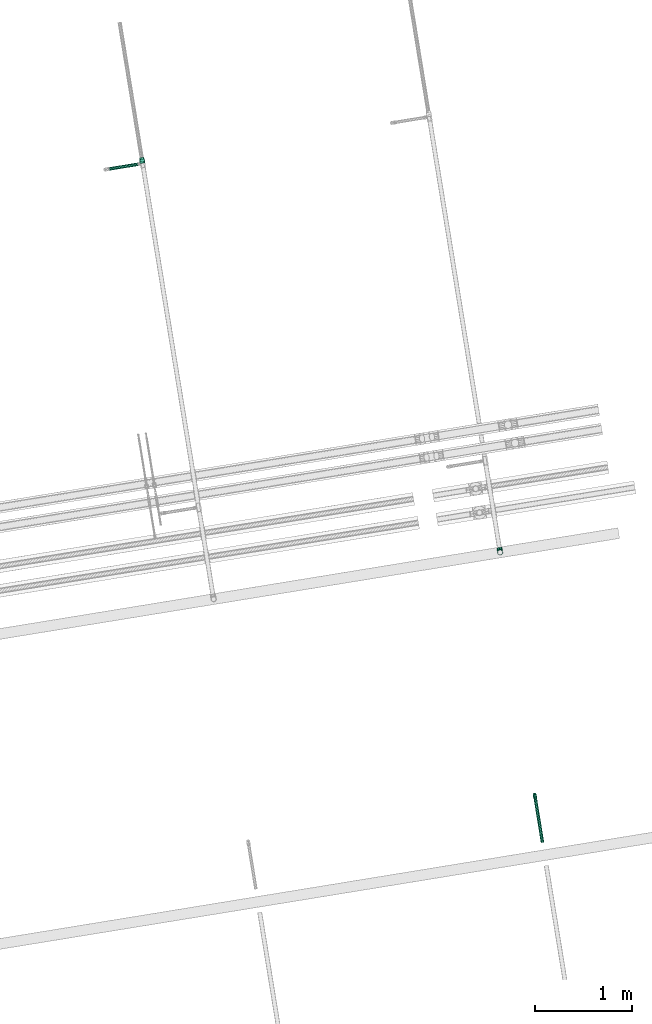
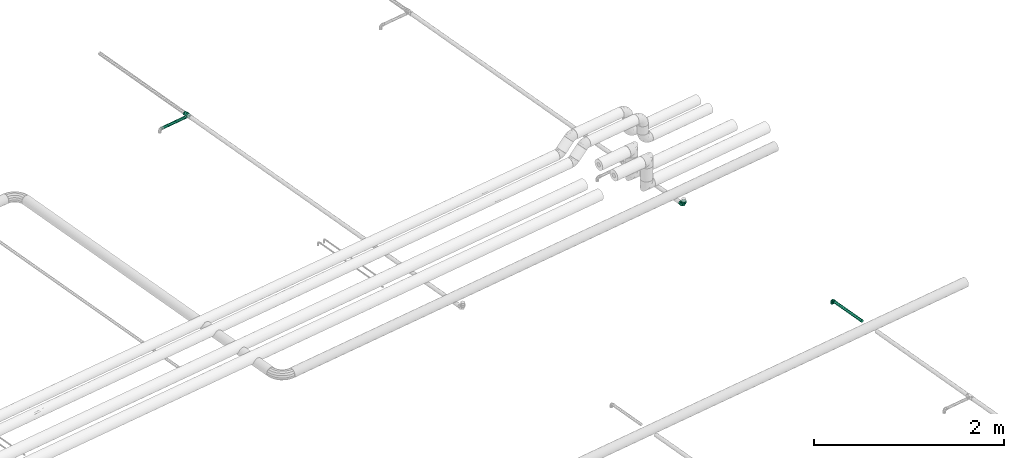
# One storey, part 26 of 56: 3 flow fittings, 2 flow segments.
"""IFC2X3 building model written with IfcOpenShell, lengths in millimetres."""

from ifc_helpers import new_model, entity, si_unit, converted_unit, derived_unit, direction, frame, frame_2d, origin, origin_with_axes, origin_2d_with_axis, place, context, subcontext, project, spatial, circle, extrude, faceted_brep, source, transform, mapped, material, type_object, element, save


model = new_model("IFC2X3")

# Units and contexts
model_context = context("Model", 3, precision=0.01, world=origin(), true_north=direction((6.12323399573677e-17, 1.0)))
plan_context = context("Plan", 3, precision=1e-05, world=origin_with_axes())
body_context = subcontext(model_context, "Body", "Model", "MODEL_VIEW")
ifc_project = project(units=[converted_unit("PLANEANGLEUNIT", "DEGREE", entity("IfcPositiveLengthMeasure", 0.0174532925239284), si_unit("PLANEANGLEUNIT", "RADIAN"), dimensions=[0, 0, 0, 0, 0, 0, 0]), si_unit("AREAUNIT", "SQUARE_METRE"), si_unit("LENGTHUNIT", "METRE", prefix="MILLI"), si_unit("MASSUNIT", "GRAM", prefix="KILO"), si_unit("POWERUNIT", "WATT"), si_unit("PRESSUREUNIT", "PASCAL", prefix="KILO"), si_unit("FORCEUNIT", "NEWTON", prefix="KILO"), si_unit("ELECTRICVOLTAGEUNIT", "VOLT"), si_unit("ELECTRICCURRENTUNIT", "AMPERE"), si_unit("THERMODYNAMICTEMPERATUREUNIT", "DEGREE_CELSIUS"), si_unit("TIMEUNIT", "SECOND"), si_unit("VOLUMEUNIT", "CUBIC_METRE"), derived_unit("LINEARVELOCITYUNIT", [(si_unit("LENGTHUNIT", "METRE"), 1), (si_unit("TIMEUNIT", "SECOND"), -1)]), derived_unit("VOLUMETRICFLOWRATEUNIT", [(si_unit("VOLUMEUNIT", "CUBIC_METRE"), 1), (si_unit("TIMEUNIT", "SECOND"), -1)]), derived_unit("THERMALTRANSMITTANCEUNIT", [(si_unit("POWERUNIT", "WATT"), 1), (si_unit("THERMODYNAMICTEMPERATUREUNIT", "KELVIN"), -1), (si_unit("AREAUNIT", "SQUARE_METRE"), -1)]), derived_unit("SOUNDPRESSUREUNIT", [(si_unit("PRESSUREUNIT", "PASCAL"), 1)])], contexts=[model_context, plan_context])

# Site, building, storey
site_placement = place(None, frame((-3.09682673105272e-06, 1.93776733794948e-05, 0.0), z_axis=(0.0, 0.0, 1.0), x_axis=(-0.160806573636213, 0.986985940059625, 0.0)))
site = spatial("IfcSite", under=ifc_project, at=site_placement, Name="Default", CompositionType="ELEMENT")
building_placement = place(site_placement, frame((0.0, 0.0, 0.0), z_axis=(0.0, 0.0, 1.0), x_axis=(1.0, -2.77555756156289e-17, 0.0)))
building = spatial("IfcBuilding", under=site, at=building_placement, Name="Bygning (endres i Project Information)", CompositionType="ELEMENT")
storey_placement = place(building_placement, frame((0.0, 0.0, 51360.0000000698), z_axis=(0.0, 0.0, 1.0), x_axis=(1.0, -2.77555756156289e-17, 0.0)))
storey = spatial("IfcBuildingStorey", under=building, at=storey_placement, Name="H01-Nivå D+0,36", CompositionType="ELEMENT", Elevation=51360.0000000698)

# Flow fittings
ifc_material = material(Name="3320.001")
pipe_fitting_type_1 = type_object("IfcPipeFittingType", Name="RS_53_PIF_UN_Elbow-EN10241_NOR:RS_53_PIF_UN_Elbow-EN10241_NOR", PredefinedType="NOTDEFINED", material=ifc_material)
shared_shape_1 = source(origin(), body_context, "Body", "Brep", [
    faceted_brep([(-43.0, 5.11167614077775, 19.0770350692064), (-43.0, 17.1040017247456, 9.87499999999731), (-43.0, 19.7500000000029, 0.0), (-43.0, 17.1040017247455, -9.87500000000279), (-43.0, 5.11167614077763, -19.0770350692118), (-43.0, -5.11167614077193, -19.0770350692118), (-43.0, -17.1040017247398, -9.87500000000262), (-43.0, -19.7499999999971, 0.0), (-43.0, -17.1040017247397, 9.87499999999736), (-43.0, -5.11167614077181, 19.0770350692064), (-21.7499999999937, -19.7499999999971, 0.0), (-21.7499999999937, -15.1293510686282, -12.6950870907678), (-21.7499999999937, -3.42946974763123, -19.4499675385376), (-21.7499999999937, 15.1294711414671, -12.694943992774), (-21.7499999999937, 19.7500000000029, 0.0), (-21.7499999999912, 5.85000069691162, -16.072455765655), (-21.7499999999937, 15.1294711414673, 12.6949439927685), (-21.7499999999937, 3.42965371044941, 19.4499351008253), (-21.7499999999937, -15.1293510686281, 12.6950870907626), (-5.41688095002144, -10.3200693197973, 0.0), (0.655979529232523, -2.00253561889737, 16.4678355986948), (-11.0449015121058, 9.84579831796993, 18.897380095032), (-18.5589216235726, 21.7499999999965, 6.75491881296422), (-15.1293490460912, 21.7499999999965, 12.6950895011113), (-20.3357864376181, 20.3357864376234, 0.0), (-19.7499999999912, 21.7499999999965, 0.0), (14.190054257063, 1.0, 0.0), (12.6950125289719, 21.7499999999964, 15.1294136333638), (6.75482439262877, 21.7499999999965, 18.5589559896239), (17.2232575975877, 12.3200689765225, 0.0), (-6.754824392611, 21.7499999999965, 18.558955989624), (19.7500000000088, 21.7499999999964, 0.0), (18.5589216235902, 21.7499999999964, 6.75491881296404), (0.0, 21.7499999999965, 19.7499999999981), (-18.5589216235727, 21.7499999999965, -6.75491881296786), (-10.1618436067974, 10.1618877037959, -19.0082217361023), (1.2569166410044, -0.890945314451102, -16.7093898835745), (0.0, 21.7499999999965, -19.7500000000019), (-6.75482439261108, 21.7499999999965, -18.5589559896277), (-12.6950125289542, 21.7499999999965, -15.1294136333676), (18.5589216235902, 21.7499999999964, -6.75491881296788), (15.1293490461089, 21.7499999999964, -12.6950895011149), (6.75482439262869, 21.7499999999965, -18.5589559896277), (-9.8749999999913, 43.0, 17.1040017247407), (0.0, 43.0, 19.7499999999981), (9.8750000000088, 43.0, 17.1040017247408), (19.0770350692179, 43.0, 5.11167614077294), (19.0770350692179, 43.0, -5.11167614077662), (9.87500000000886, 43.0, -17.1040017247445), (0.0, 43.0, -19.7500000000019), (-9.87499999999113, 43.0, -17.1040017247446), (-19.0770350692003, 43.0, -5.11167614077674), (-19.0770350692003, 43.0, 5.11167614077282)], [[[0, 1, 2, 3, 4, 5, 6, 7, 8, 9]], [[7, 6, 10]], [[6, 11, 10]], [[11, 6, 5]], [[11, 5, 12]], [[13, 4, 3]], [[14, 3, 2]], [[4, 13, 15, 12]], [[13, 3, 14]], [[4, 12, 5]], [[2, 1, 14]], [[1, 16, 14]], [[16, 1, 0]], [[16, 0, 17]], [[18, 9, 8]], [[10, 8, 7]], [[9, 18, 17]], [[18, 8, 10]], [[9, 17, 0]], [[18, 19, 20]], [[20, 21, 17]], [[22, 16, 23]], [[16, 17, 21]], [[24, 14, 22]], [[22, 25, 24]], [[14, 16, 22]], [[20, 26, 27]], [[27, 28, 20]], [[26, 29, 27]], [[23, 21, 30]], [[31, 32, 29]], [[18, 20, 17]], [[26, 20, 19]], [[21, 23, 16]], [[18, 10, 19]], [[33, 21, 20]], [[33, 30, 21]], [[27, 29, 32]], [[33, 20, 28]], [[14, 24, 34]], [[25, 34, 24]], [[12, 35, 36]], [[14, 34, 13]], [[36, 19, 11]], [[37, 35, 38]], [[38, 35, 39]], [[10, 11, 19]], [[34, 39, 13]], [[37, 36, 35]], [[36, 11, 12]], [[39, 35, 13]], [[40, 31, 29]], [[41, 36, 42]], [[36, 37, 42]], [[41, 40, 29]], [[26, 36, 41]], [[29, 26, 41]], [[19, 36, 26]], [[13, 35, 12, 15]], [[43, 44, 45, 46, 47, 48, 49, 50, 51, 52]], [[49, 37, 38]], [[50, 38, 39]], [[49, 38, 50]], [[51, 50, 39]], [[51, 34, 25]], [[34, 51, 39]], [[52, 25, 22]], [[22, 23, 52]], [[30, 43, 23]], [[52, 23, 43]], [[44, 43, 30]], [[33, 44, 30]], [[25, 52, 51]], [[44, 33, 28]], [[45, 28, 27]], [[44, 28, 45]], [[46, 45, 27]], [[46, 32, 31]], [[32, 46, 27]], [[47, 31, 40]], [[40, 41, 47]], [[42, 48, 41]], [[47, 41, 48]], [[49, 48, 42]], [[37, 49, 42]], [[31, 47, 46]]]),
])
flow_fitting_1_placement = place(storey_placement, frame((1008068.93557438, -395286.663841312, 3370.0), z_axis=(-2.77555756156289e-17, -1.0, 0.0), x_axis=(0.0, 0.0, 1.0)))
element("IfcFlowFitting", 1, at=flow_fitting_1_placement, inside=storey, type_object=pipe_fitting_type_1, material=ifc_material, Name="RS_53_PIF_UN_Elbow-EN10241_NOR:RS_53_PIF_UN_Elbow-EN10241_NOR", ObjectType="RS_53_PIF_UN_Elbow-EN10241_NOR:RS_53_PIF_UN_Elbow-EN10241_NOR", context=body_context, shape_type="MappedRepresentation", body=[
    mapped(shared_shape_1, transform((0.0, 0.0, 0.0), scale=1.0)),
])
pipe_fitting_type_2 = type_object("IfcPipeFittingType", Name="RS_53_PIF_UN_Reducing-Socket-EN10241_MC_gen:RS_53_PIF_UN_Reducing-Socket-EN10241_MC_gen", PredefinedType="NOTDEFINED", material=ifc_material)
shared_shape_2 = source(origin(), body_context, "Body", "Brep", [
    faceted_brep([(0.0, 19.7989898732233, 19.7989898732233), (0.0, 24.2487113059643, 14.0), (0.0, 27.0459231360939, 7.24693326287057), (0.0, 28.0, 0.0), (0.0, 27.0459231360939, -7.24693326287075), (0.0, 24.2487113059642, -14.0), (0.0, 19.7989898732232, -19.7989898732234), (0.0, 14.0, -24.2487113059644), (0.0, 7.24693326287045, -27.0459231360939), (0.0, 0.0, -28.0), (0.0, -7.2469332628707, -27.0459231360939), (0.0, -14.0, -24.2487113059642), (0.0, -19.7989898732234, -19.7989898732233), (0.0, -24.2487113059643, -14.0), (0.0, -27.0459231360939, -7.24693326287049), (0.0, -28.0, 0.0), (0.0, -27.0459231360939, 7.24693326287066), (0.0, -24.2487113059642, 14.0), (0.0, -19.7989898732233, 19.7989898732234), (0.0, -14.0, 24.2487113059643), (0.0, -7.24693326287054, 27.0459231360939), (0.0, 0.0, 28.0), (0.0, 7.24693326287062, 27.0459231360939), (0.0, 14.0, 24.2487113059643), (20.0, -9.43067316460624, -25.9117989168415), (20.0, -21.4490865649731, -17.9982411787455), (20.0, -23.8802189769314, -13.7874602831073), (20.0, -26.3113513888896, -9.57667938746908), (20.0, -13.9996810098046, -24.248895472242), (20.0, -17.7243837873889, -21.1235683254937), (20.0, -27.1556756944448, -4.78833969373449), (20.0, -4.86166531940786, -27.5747023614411), (20.0, 4.86275354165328, -27.5745104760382), (20.0, 0.000544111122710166, -27.5746064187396), (20.0, -28.0, 0.0), (20.0, 9.43169575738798, -25.9114267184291), (20.0, 14.0006379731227, -24.2483429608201), (20.0, 26.3117293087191, -9.57564101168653), (20.0, 23.8807630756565, -13.7865178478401), (20.0, 21.449796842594, -17.9973946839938), (20.0, 17.7252174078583, -21.122868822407), (20.0, 28.0, 0.0), (20.0, 21.4497968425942, 17.9973946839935), (20.0, 23.8807630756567, 13.7865178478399), (20.0, 26.3117293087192, 9.57564101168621), (20.0, 14.0006379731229, 24.24834296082), (20.0, 17.7252174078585, 21.1228688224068), (20.0, 4.86275354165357, 27.5745104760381), (20.0, 9.43169575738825, 25.9114267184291), (20.0, -4.86166531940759, 27.5747023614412), (20.0, 0.000544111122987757, 27.5746064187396), (20.0, -27.1556756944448, 4.78833969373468), (20.0, -9.43067316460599, 25.9117989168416), (20.0, -13.9996810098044, 24.2488954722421), (20.0, -17.7243837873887, 21.1235683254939), (20.0, -21.449086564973, 17.9982411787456), (20.0, -26.3113513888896, 9.57667938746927), (20.0, -23.8802189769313, 13.7874602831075), (40.0, 24.5000000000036, 0.0), (40.0, 23.0225328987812, -8.37931852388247), (40.0, 18.7681935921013, -15.7481716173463), (40.0, -12.2499395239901, -21.2176573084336), (40.0, -15.5089992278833, -18.482994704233), (40.0, 12.2501209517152, -21.2175525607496), (40.0, 20.8953632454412, -12.0637450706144), (40.0, 15.5091572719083, -18.4828620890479), (40.0, 4.25449497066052, -24.1277697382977), (40.0, 0.000103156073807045, -24.1277879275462), (40.0, 8.25230796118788, -22.6726611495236), (40.0, -4.25428865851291, -24.1278061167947), (40.0, -8.25211409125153, -22.6727317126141), (40.0, -18.7680589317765, -15.7483321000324), (40.0, -20.8952600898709, -12.0639237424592), (40.0, -23.6863464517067, -4.61444575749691), (40.0, -23.0224612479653, -8.37951538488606), (40.0, -23.7612306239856, -4.18975769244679), (40.0, -24.4999999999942, 0.0), (40.0, -23.7612306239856, 4.1897576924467), (40.0, -23.6863464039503, 4.61444602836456), (40.0, -12.2499395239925, 21.2176573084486), (40.0, 15.509157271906, 18.4828620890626), (40.0, 12.250120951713, 21.2175525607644), (40.0, -20.8952600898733, 12.0639237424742), (40.0, -18.7680589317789, 15.7483321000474), (40.0, -4.2542886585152, 24.1278061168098), (40.0, -15.5089992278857, 18.482994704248), (40.0, -23.0224612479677, 8.37951538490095), (40.0, -8.25211409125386, 22.6727317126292), (40.0, 4.25449497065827, 24.1277697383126), (40.0, 18.7681935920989, 15.7481716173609), (40.0, 8.25230796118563, 22.6726611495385), (40.0, 23.0225328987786, 8.37931852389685), (40.0, 0.000103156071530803, 24.1277879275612), (40.0, 20.8953632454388, 12.0637450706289), (60.0, 0.0, -24.5), (60.0, 6.34106660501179, -23.6651827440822), (60.0, 12.25, -21.2176223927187), (60.0, 17.3241161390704, -17.3241161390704), (60.0, 21.2176223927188, -12.25), (60.0, 23.6651827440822, -6.34106660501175), (60.0, 24.5, 0.0), (60.0, 23.6651827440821, 6.34106660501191), (60.0, 21.2176223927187, 12.2500000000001), (60.0, 17.3241161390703, 17.3241161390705), (60.0, 12.2499999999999, 21.2176223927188), (60.0, 6.34106660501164, 23.6651827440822), (60.0, 0.0, 24.5), (60.0, -6.34106660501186, 23.6651827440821), (60.0, -12.2500000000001, 21.2176223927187), (60.0, -17.3241161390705, 17.3241161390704), (60.0, -21.2176223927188, 12.2499999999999), (60.0, -23.6651827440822, 6.34106660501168), (60.0, -24.5, 0.0), (60.0, -23.6651827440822, -6.34106660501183), (60.0, -21.2176223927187, -12.2500000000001), (60.0, -17.3241161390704, -17.3241161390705), (60.0, -12.25, -21.2176223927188), (60.0, -6.34106660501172, -23.6651827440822)], [[[0, 1, 2, 3, 4, 5, 6, 7, 8, 9, 10, 11, 12, 13, 14, 15, 16, 17, 18, 19, 20, 21, 22, 23]], [[24, 11, 10]], [[13, 12, 25]], [[13, 25, 26, 27]], [[28, 29, 11]], [[14, 27, 30]], [[30, 15, 14]], [[13, 27, 14]], [[10, 31, 24]], [[25, 12, 29]], [[9, 32, 33, 31]], [[24, 28, 11]], [[11, 29, 12]], [[30, 34, 15]], [[32, 9, 8]], [[35, 7, 36]], [[5, 37, 38, 39]], [[7, 35, 8]], [[5, 4, 37]], [[6, 39, 40]], [[32, 8, 35]], [[5, 39, 6]], [[40, 36, 7]], [[4, 41, 37]], [[4, 3, 41]], [[9, 31, 10]], [[40, 7, 6]], [[41, 3, 2]], [[1, 0, 42]], [[1, 42, 43, 44]], [[45, 46, 23]], [[44, 41, 2]], [[22, 47, 48]], [[42, 0, 46]], [[21, 49, 50, 47]], [[23, 46, 0]], [[49, 21, 20]], [[21, 47, 22]], [[15, 51, 16]], [[52, 19, 53]], [[1, 44, 2]], [[48, 23, 22]], [[54, 19, 18]], [[15, 34, 51]], [[19, 52, 20]], [[18, 55, 54]], [[49, 20, 52]], [[48, 45, 23]], [[17, 55, 18]], [[56, 17, 16]], [[16, 51, 56]], [[54, 53, 19]], [[57, 55, 17, 56]], [[37, 58, 59]], [[40, 39, 60]], [[29, 61, 62]], [[38, 37, 59]], [[35, 36, 63]], [[60, 39, 64]], [[37, 41, 58]], [[63, 36, 65]], [[64, 39, 38]], [[33, 66, 67]], [[65, 36, 40]], [[68, 32, 35]], [[66, 32, 68]], [[67, 69, 31]], [[24, 31, 69]], [[62, 25, 29]], [[61, 28, 70]], [[26, 71, 72]], [[27, 73, 30]], [[71, 26, 25]], [[38, 59, 64]], [[29, 28, 61]], [[74, 73, 27]], [[30, 73, 75, 76]], [[72, 27, 26]], [[40, 60, 65]], [[71, 25, 62]], [[72, 74, 27]], [[34, 30, 76]], [[32, 66, 33]], [[67, 31, 33]], [[70, 28, 24]], [[24, 69, 70]], [[35, 63, 68]], [[51, 76, 77, 78]], [[54, 79, 53]], [[80, 45, 81]], [[82, 83, 57]], [[49, 52, 84]], [[79, 54, 85]], [[86, 56, 78]], [[76, 51, 34]], [[54, 55, 85]], [[52, 53, 87]], [[78, 56, 51]], [[56, 86, 82]], [[83, 55, 57]], [[88, 47, 50]], [[81, 45, 48]], [[89, 46, 80]], [[84, 52, 87]], [[81, 48, 90]], [[91, 58, 44]], [[91, 44, 43]], [[87, 53, 79]], [[89, 42, 46]], [[88, 50, 92]], [[47, 90, 48]], [[93, 43, 42]], [[46, 45, 80]], [[85, 55, 83]], [[91, 43, 93]], [[44, 58, 41]], [[56, 82, 57]], [[90, 47, 88]], [[92, 50, 49]], [[93, 42, 89]], [[92, 49, 84]], [[94, 95, 96, 97, 98, 99, 100, 101, 102, 103, 104, 105, 106, 107, 108, 109, 110, 111, 112, 113, 114, 115, 116, 117]], [[58, 100, 99]], [[98, 97, 60]], [[98, 60, 64, 59]], [[63, 65, 96]], [[59, 58, 99]], [[95, 66, 68]], [[60, 97, 65]], [[94, 69, 67, 66]], [[96, 65, 97]], [[94, 117, 69]], [[94, 66, 95]], [[116, 70, 117]], [[116, 61, 70]], [[114, 113, 74]], [[68, 96, 95]], [[62, 61, 116]], [[112, 76, 75]], [[98, 59, 99]], [[70, 69, 117]], [[114, 71, 115]], [[115, 71, 62]], [[62, 116, 115]], [[114, 74, 72, 71]], [[112, 75, 113]], [[68, 63, 96]], [[113, 75, 73, 74]], [[87, 108, 107]], [[110, 109, 83]], [[110, 83, 82, 86]], [[79, 85, 108]], [[111, 86, 78, 77]], [[77, 112, 111]], [[110, 86, 111]], [[107, 84, 87]], [[83, 109, 85]], [[106, 88, 92, 84]], [[87, 79, 108]], [[108, 85, 109]], [[77, 76, 112]], [[88, 106, 105]], [[90, 104, 81]], [[102, 91, 93, 89]], [[104, 90, 105]], [[102, 101, 91]], [[103, 89, 80]], [[88, 105, 90]], [[102, 89, 103]], [[80, 81, 104]], [[101, 58, 91]], [[101, 100, 58]], [[106, 84, 107]], [[80, 104, 103]]]),
])
flow_fitting_2_placement = place(storey_placement, frame((1015161.53557438, -392336.905112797, 3200.0), z_axis=(0.0, 0.0, 1.0), x_axis=(1.0, -2.77555756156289e-17, 0.0)))
element("IfcFlowFitting", 2, at=flow_fitting_2_placement, inside=storey, type_object=pipe_fitting_type_2, material=ifc_material, Name="RS_53_PIF_UN_Reducing-Socket-EN10241_MC_gen:RS_53_PIF_UN_Reducing-Socket-EN10241_MC_gen", ObjectType="RS_53_PIF_UN_Reducing-Socket-EN10241_MC_gen:RS_53_PIF_UN_Reducing-Socket-EN10241_MC_gen", context=body_context, shape_type="MappedRepresentation", body=[
    mapped(shared_shape_2, transform((0.0, 0.0, 0.0), scale=1.0)),
])
pipe_fitting_type_3 = type_object("IfcPipeFittingType", Name="RS_53_PIF_UN_Elbow-EN10241_NOR:RS_53_PIF_UN_Elbow-EN10241_NOR", PredefinedType="NOTDEFINED", material=ifc_material)
shared_shape_3 = source(origin(), body_context, "Body", "Brep", [
    faceted_brep([(-52.0, 7.24693326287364, 27.0459231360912), (-52.0, 24.2487113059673, 14.0), (-52.0, 28.0, 0.0), (-52.0, 24.2487113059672, -14.0), (-52.0, 7.24693326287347, -27.0459231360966), (-52.0, -7.24693326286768, -27.0459231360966), (-52.0, -24.2487113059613, -14.0), (-52.0, -28.0, 0.0), (-52.0, -24.2487113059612, 14.0), (-52.0, -7.24693326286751, 27.0459231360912), (-30.0, -28.0, 0.0), (-30.0, -21.4492137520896, -17.9980896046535), (-30.0, -4.86205504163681, -27.5746336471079), (-30.0, 21.4493517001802, -17.9979252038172), (-30.0, 28.0, 0.0), (-30.0, 8.29364832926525, -22.7862794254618), (-30.0, 21.4493517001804, 17.9979252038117), (-30.0, 4.86226639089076, 27.5745963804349), (-30.0, -21.4492137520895, 17.9980896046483), (11.0121933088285, -11.0121933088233, 0.0), (1.88015334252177, -2.37333729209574, 23.3612476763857), (-4.79114257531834, -17.5581493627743, 0.0), (-15.3468616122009, 13.6699288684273, 26.8150053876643), (-21.4491366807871, 30.0, 17.9981814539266), (-9.57628841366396, 30.0, 26.3114936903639), (-28.5857864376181, 28.5857864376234, 0.0), (-26.3113647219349, 30.0, 9.57664275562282), (-28.0, 30.0, 0.0), (17.5581489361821, 4.79114154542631, 0.0), (22.7790744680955, 17.3955707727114, 0.0), (17.9978925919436, 30.0, 21.4493790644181), (9.57628841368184, 30.0, 26.3114936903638), (28.0, 30.0, 0.0), (26.3113647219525, 30.0, 9.57664275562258), (0.0, 30.0, 28.0), (-26.3113647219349, 30.0, -9.57664275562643), (2.21896714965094, -1.70900906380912, -23.5116465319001), (-17.9978925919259, 30.0, -21.4493790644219), (-9.57628841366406, 30.0, -26.3114936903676), (0.0, 30.0, -28.0), (21.4491366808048, 30.0, -17.9981814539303), (26.3113647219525, 30.0, -9.57664275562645), (9.57628841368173, 30.0, -26.3114936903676), (-14.0, 52.0, -24.2487113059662), (-27.0459231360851, 52.0, -7.24693326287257), (-27.0459231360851, 52.0, 7.24693326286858), (-14.0, 52.0, 24.2487113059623), (0.0, 52.0, 28.0), (14.0, 52.0, 24.2487113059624), (27.0459231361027, 52.0, 7.24693326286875), (27.0459231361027, 52.0, -7.2469332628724), (14.0, 52.0, -24.2487113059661), (0.0, 52.0, -28.0)], [[[0, 1, 2, 3, 4, 5, 6, 7, 8, 9]], [[7, 6, 10]], [[6, 11, 10]], [[11, 6, 5]], [[11, 5, 12]], [[13, 4, 3]], [[14, 3, 2]], [[4, 13, 15, 12]], [[13, 3, 14]], [[4, 12, 5]], [[2, 1, 14]], [[1, 16, 14]], [[16, 1, 0]], [[16, 0, 17]], [[18, 9, 8]], [[10, 8, 7]], [[9, 18, 17]], [[18, 8, 10]], [[9, 17, 0]], [[19, 20, 21]], [[16, 17, 22]], [[21, 20, 18]], [[18, 10, 21]], [[23, 22, 24]], [[25, 14, 26]], [[26, 27, 25]], [[16, 26, 14]], [[19, 28, 20]], [[28, 29, 30]], [[30, 20, 28]], [[20, 22, 17]], [[30, 31, 20]], [[29, 32, 33]], [[22, 34, 24]], [[26, 16, 23]], [[30, 29, 33]], [[23, 16, 22]], [[34, 22, 20]], [[18, 20, 17]], [[20, 31, 34]], [[35, 13, 14]], [[21, 10, 11]], [[35, 14, 25]], [[36, 21, 11]], [[36, 11, 12]], [[13, 37, 15]], [[35, 25, 27]], [[36, 12, 15]], [[36, 15, 38]], [[38, 39, 36]], [[29, 28, 40]], [[41, 32, 29]], [[37, 13, 35]], [[40, 41, 29]], [[36, 42, 40]], [[19, 36, 28]], [[37, 38, 15]], [[21, 36, 19]], [[28, 36, 40]], [[42, 36, 39]], [[43, 44, 45, 46, 47, 48, 49, 50, 51, 52]], [[52, 39, 38]], [[43, 38, 37]], [[52, 38, 43]], [[44, 43, 37]], [[44, 35, 27]], [[35, 44, 37]], [[45, 27, 26]], [[26, 23, 45]], [[24, 46, 23]], [[45, 23, 46]], [[47, 46, 24]], [[34, 47, 24]], [[27, 45, 44]], [[47, 34, 31]], [[48, 31, 30]], [[47, 31, 48]], [[49, 48, 30]], [[49, 33, 32]], [[33, 49, 30]], [[50, 32, 41]], [[41, 40, 50]], [[42, 51, 40]], [[50, 40, 51]], [[52, 51, 42]], [[39, 52, 42]], [[32, 50, 49]]]),
])
flow_fitting_3_placement = place(storey_placement, frame((1010597.87927671, -395336.905112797, 3200.0), z_axis=(2.77555756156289e-17, 1.0, 0.0), x_axis=(-1.0, 2.77555756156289e-17, 0.0)))
element("IfcFlowFitting", 3, at=flow_fitting_3_placement, inside=storey, type_object=pipe_fitting_type_3, material=ifc_material, Name="RS_53_PIF_UN_Elbow-EN10241_NOR:RS_53_PIF_UN_Elbow-EN10241_NOR", ObjectType="RS_53_PIF_UN_Elbow-EN10241_NOR:RS_53_PIF_UN_Elbow-EN10241_NOR", context=body_context, shape_type="MappedRepresentation", body=[
    mapped(shared_shape_3, transform((0.0, 0.0, 0.0), scale=1.0)),
])

# Flow segments
pipe_segment_type = type_object("IfcPipeSegmentType", Name="Pipe Types:Stålrør sveist og gjenget", PredefinedType="NOTDEFINED", material=ifc_material)
flow_segment_1_placement = place(storey_placement, frame((0.0, 0.0, 0.0), z_axis=(0.0, 0.0, 1.0), x_axis=(1.0, -2.77555756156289e-17, 0.0)))
element("IfcFlowSegment", 4, at=flow_segment_1_placement, inside=storey, type_object=pipe_segment_type, Name="Pipe Types:Stålrør sveist og gjenget", ObjectType="Pipe Types:Stålrør sveist og gjenget", context=body_context, shape_type="SweptSolid", body=[
    extrude(circle(Radius=16.8500004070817, at=frame_2d((0.0, -8.66293703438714e-12), x_axis=(1.0, 0.0))), frame((1007568.93557438, -395286.663841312, 3370.0), z_axis=(1.0, 0.0, 0.0), x_axis=(0.0, 1.0, 0.0)), (0.0, 0.0, 1.0), 476.100000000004),
])
flow_segment_2_placement = place(storey_placement, frame((0.0, 0.0, 0.0), z_axis=(0.0, 0.0, 1.0), x_axis=(1.0, -2.77555756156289e-17, 0.0)))
element("IfcFlowSegment", 5, at=flow_segment_2_placement, inside=storey, type_object=pipe_segment_type, Name="Pipe Types:Stålrør sveist og gjenget", ObjectType="Pipe Types:Stålrør sveist og gjenget", context=body_context, shape_type="SweptSolid", body=[
    extrude(circle(Radius=16.8500004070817, at=origin_2d_with_axis()), frame((1015158.93557438, -392304.005112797, 3200.0), z_axis=(0.0, 1.0, 0.0), x_axis=(1.0, 0.0, 0.0)), (0.0, 0.0, 1.0), 333.613952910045),
])

save(model, "model.ifc")
